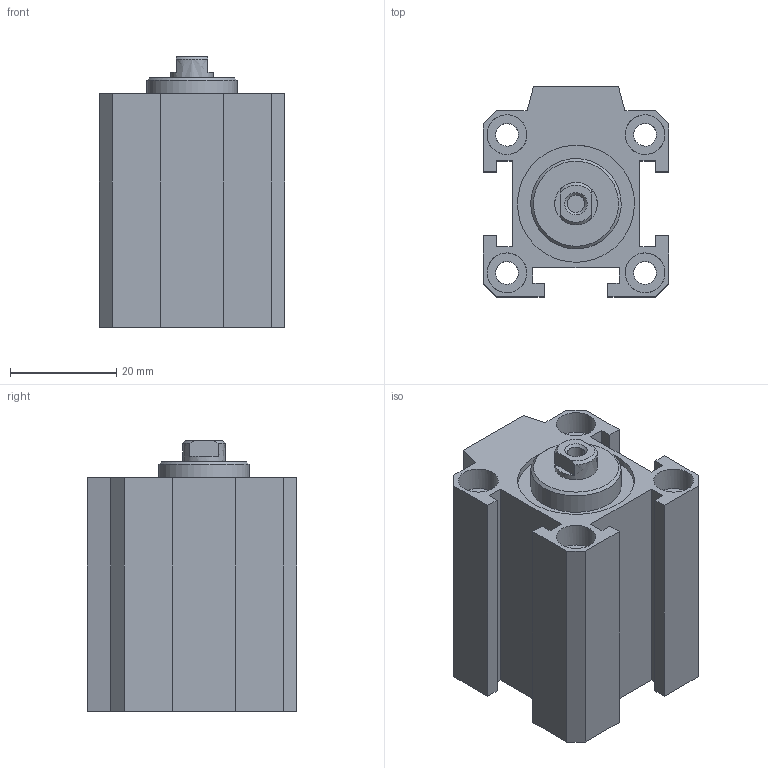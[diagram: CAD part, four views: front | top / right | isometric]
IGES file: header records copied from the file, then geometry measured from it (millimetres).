
Global section: file name: 1511_20_0010; native system: Autodesk Inventor 2014; preprocessor: unknown; author: A. Manieri; date: 20160824.110257; units: millimetre
Bounding box: 35 x 39.5 x 51 mm (x, y, z)
Volume: 39087.1 mm3; surface area: 18873.3 mm2
Topology: 2 solids, 2 shells, 91 faces, 233 edges, 164 vertices
Faces by surface type: bspline 91
